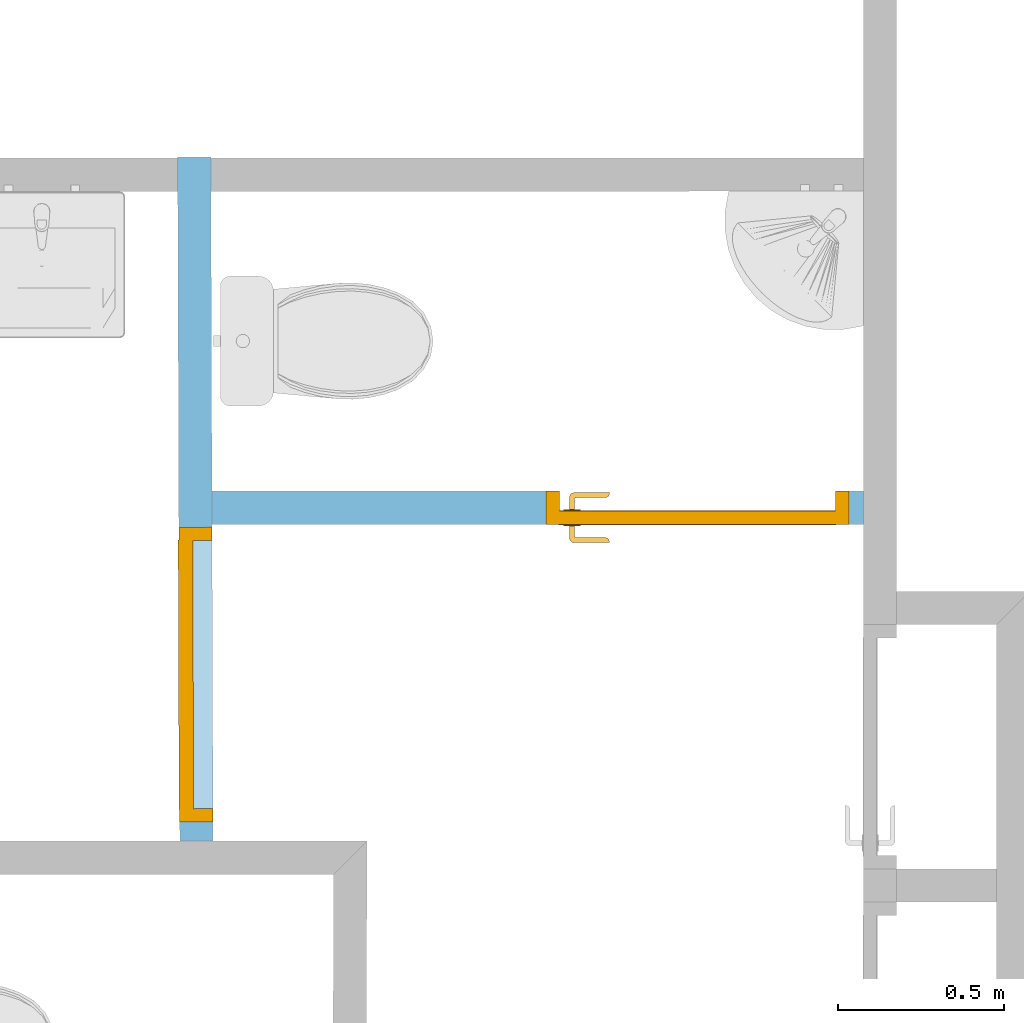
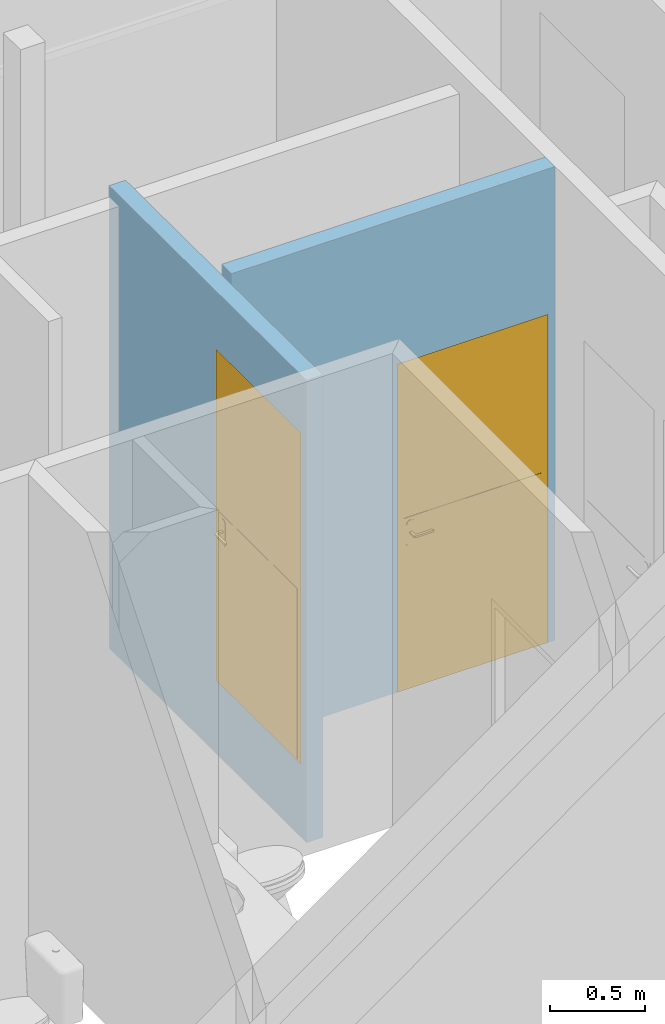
# One storey, part 22 of 34: 2 doors, 2 openings, plus 2 elements that do not belong to this part.
"""IFC2X3 building model written with IfcOpenShell, lengths in metres."""

from ifc_helpers import new_model, entity, si_unit, converted_unit, derived_unit, money_unit, direction, frame, origin_with_axes, origin_2d_with_axis, place, context, subcontext, project, spatial, polyline, rectangle, outline, extrude, faceted_brep, material, layer, layer_set, layer_usage, type_object, element, fill, save


model = new_model("IFC2X3")

# Units and contexts
model_context = context("Model", 3, precision=1e-05, world=origin_with_axes(), true_north=direction((0.0, 1.0)))
body_context = subcontext(model_context, "Body", "Model", "MODEL_VIEW")
ifc_project = project(units=[si_unit("LENGTHUNIT", "METRE"), si_unit("AREAUNIT", "SQUARE_METRE"), si_unit("VOLUMEUNIT", "CUBIC_METRE"), converted_unit("PLANEANGLEUNIT", "DEGREE", entity("IfcPlaneAngleMeasure", 0.0174532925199), si_unit("PLANEANGLEUNIT", "RADIAN"), dimensions=[0, 0, 0, 0, 0, 0, 0]), money_unit("CHF"), converted_unit("TIMEUNIT", "Year", entity("IfcTimeMeasure", 31556926.0), si_unit("TIMEUNIT", "SECOND"), dimensions=[0, 0, 1, 0, 0, 0, 0]), si_unit("MASSUNIT", "GRAM", prefix="KILO"), si_unit("THERMODYNAMICTEMPERATUREUNIT", "DEGREE_CELSIUS"), si_unit("LUMINOUSINTENSITYUNIT", "LUMEN"), si_unit("ENERGYUNIT", "JOULE", prefix="MEGA"), derived_unit("THERMALCONDUCTANCEUNIT", [(si_unit("POWERUNIT", "WATT"), 1), (si_unit("LENGTHUNIT", "METRE"), -1), (si_unit("THERMODYNAMICTEMPERATUREUNIT", "KELVIN"), -1)]), derived_unit("SPECIFICHEATCAPACITYUNIT", [(si_unit("ENERGYUNIT", "JOULE"), 1), (si_unit("MASSUNIT", "GRAM", prefix="KILO"), -1), (si_unit("THERMODYNAMICTEMPERATUREUNIT", "KELVIN"), -1)]), derived_unit("MASSDENSITYUNIT", [(si_unit("MASSUNIT", "GRAM", prefix="KILO"), 1), (si_unit("VOLUMEUNIT", "CUBIC_METRE"), -1)])], contexts=[model_context])

# Site, building, storey
site_placement = place(None, origin_with_axes())
site = spatial("IfcSite", under=ifc_project, at=site_placement, Name="Site", CompositionType="ELEMENT")
building_placement = place(site_placement, origin_with_axes())
building = spatial("IfcBuilding", under=site, at=building_placement, Name="Bâtiment", CompositionType="ELEMENT")
storey_placement = place(building_placement, origin_with_axes())
storey = spatial("IfcBuildingStorey", under=building, at=storey_placement, Name="RDC", CompositionType="ELEMENT", Elevation=-5.32907e-15)

# Wall, opening, door
ifc_material_1 = material(Name="Plâtre lissé 291446788")
ifc_layer_1 = layer(ifc_material_1, 0.015, ventilated="UNKNOWN")
ifc_material_2 = material(Name="Isolation laine de pierre 307970822")
ifc_layer_2 = layer(ifc_material_2, 0.07, ventilated="UNKNOWN")
ifc_layer_3 = layer(ifc_material_1, 0.015, ventilated="UNKNOWN")
ifc_layer_set = layer_set([ifc_layer_1, ifc_layer_2, ifc_layer_3], Name="CLOISON 10 ROUGE")
ifc_layer_usage_1 = layer_usage(ifc_layer_set, "AXIS2", "POSITIVE", 0.0)
wall_type = type_object("IfcWallType", Name="CLOISON 10 ROUGE 100", PredefinedType="NOTDEFINED")
wall_1_placement = place(storey_placement, frame((1671.0330132, 185.701953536, 0.47), z_axis=(0.0, 0.0, 1.0), x_axis=(1.0, 0.0, 0.0)))
wall_1 = element("IfcWallStandardCase", 1, at=wall_1_placement, inside=storey, type_object=wall_type, material=ifc_layer_usage_1, Name="Mur-010", context=body_context, shape_type="SweptSolid", body=[
    extrude(outline(polyline([(0.100000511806, 0.0), (2.05788262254, 0.0), (2.05788262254, 0.1), (0.099680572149, 0.1), (0.100000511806, 0.0)])), origin_with_axes(), (0.0, 0.0, 1.0), 3.03000008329),
])
opening_1_placement = place(wall_1_placement, frame((1.55904852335, 0.0, 0.0), z_axis=(0.0, 0.0, 1.0), x_axis=(1.0, 0.0, 0.0)))
opening_1 = element("IfcOpeningElement", 2, at=opening_1_placement, cuts=wall_1, Name="Por-004", context=body_context, shape_type="SweptSolid", body=[
    extrude(rectangle(XDim=0.91, YDim=2.1, at=origin_2d_with_axis()), frame((0.0, 0.1, 1.05), z_axis=(0.0, 1.0, 0.0), x_axis=(1.0, 0.0, 0.0)), (0.0, 0.0, -1.0), 0.3),
])
door_style = type_object("IfcDoorStyle", Name="Porte 25", ConstructionType="NOTDEFINED", OperationType="SINGLE_SWING_LEFT", ParameterTakesPrecedence=False, Sizeable=False)
door_1_placement = place(opening_1_placement, frame((0.427, 0.0, 0.0), z_axis=(0.0, 0.0, 1.0), x_axis=(-1.0, 0.0, 0.0)))
door_1 = element("IfcDoor", 3, at=door_1_placement, inside=storey, type_object=door_style, Name="Por-004", OverallHeight=2.1, OverallWidth=0.91, context=body_context, shape_type="Brep", body=[
    faceted_brep([(0.842, -0.04, 0.0), (0.842, -0.1, 0.0), (0.842, -0.1, 2.06), (0.842, -0.04, 2.06), (0.854, -0.04, 0.0), (0.854, 0.0, 0.0), (0.882, 0.0, 0.0), (0.882, -0.1, 0.0), (0.882, -0.1, 2.06), (0.854, -0.04, 2.06), (0.882, 0.0, 2.06), (0.854, 0.0, 2.06)], [[[0, 1, 2, 3]], [[4, 5, 6, 7, 1, 0]], [[1, 7, 8, 2]], [[9, 3, 2, 8, 10, 11]], [[9, 4, 0, 3]], [[11, 5, 4, 9]], [[11, 10, 6, 5]], [[6, 10, 8, 7]]]),
    faceted_brep([(0.0, -0.04, 2.06), (0.0, 0.0, 2.06), (-0.028, 0.0, 2.06), (-0.028, -0.1, 2.06), (0.012, -0.1, 2.06), (0.012, -0.04, 2.06), (0.0, -0.04, 0.0), (0.0, 0.0, 0.0), (-0.028, 0.0, 0.0), (-0.028, -0.1, 0.0), (0.012, -0.1, 0.0), (0.012, -0.04, 0.0)], [[[0, 1, 2, 3, 4, 5]], [[0, 6, 7, 1]], [[7, 8, 2, 1]], [[2, 8, 9, 3]], [[3, 9, 10, 4]], [[5, 4, 10, 11]], [[5, 11, 6, 0]], [[6, 11, 10, 9, 8, 7]]]),
    faceted_brep([(0.854, 0.0, 2.072), (0.0, 0.0, 2.072), (0.0, 0.0, 2.06), (-0.028, 0.0, 2.06), (-0.028, 0.0, 2.1), (0.882, 0.0, 2.1), (0.882, 0.0, 2.06), (0.854, 0.0, 2.06), (0.854, -0.04, 2.072), (0.0, -0.04, 2.072), (0.0, -0.04, 2.06), (0.012, -0.04, 2.06), (0.012, -0.1, 2.06), (-0.028, -0.1, 2.06), (-0.028, -0.1, 2.1), (0.882, -0.1, 2.1), (0.882, -0.1, 2.06), (0.854, -0.04, 2.06), (0.842, -0.1, 2.06), (0.842, -0.04, 2.06)], [[[0, 1, 2, 3, 4, 5, 6, 7]], [[0, 8, 9, 1]], [[1, 9, 10, 2]], [[10, 11, 12, 13, 3, 2]], [[4, 3, 13, 14]], [[5, 4, 14, 15]], [[6, 5, 15, 16]], [[17, 7, 6, 16, 18, 19]], [[7, 17, 8, 0]], [[10, 9, 8, 17, 19, 11]], [[19, 18, 12, 11]], [[12, 18, 16, 15, 14, 13]]]),
    faceted_brep([(0.829, -0.04, 0.93), (0.829, -0.045, 0.93), (0.827096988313, -0.045, 0.920432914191), (0.827096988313, -0.04, 0.920432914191), (0.829, -0.04, 1.055), (0.829, -0.045, 1.055), (0.827096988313, -0.045, 1.06456708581), (0.82167766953, -0.045, 1.07267766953), (0.813567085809, -0.045, 1.07809698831), (0.804, -0.045, 1.08), (0.794432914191, -0.045, 1.07809698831), (0.78632233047, -0.045, 1.07267766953), (0.780903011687, -0.045, 1.06456708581), (0.779, -0.045, 1.055), (0.779, -0.045, 0.93), (0.780903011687, -0.045, 0.920432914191), (0.78632233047, -0.045, 0.91232233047), (0.794432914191, -0.045, 0.906903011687), (0.804, -0.045, 0.905), (0.813567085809, -0.045, 0.906903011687), (0.82167766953, -0.045, 0.91232233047), (0.82167766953, -0.04, 0.91232233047), (0.813567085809, -0.04, 0.906903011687), (0.804, -0.04, 0.905), (0.794432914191, -0.04, 0.906903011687), (0.78632233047, -0.04, 0.91232233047), (0.780903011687, -0.04, 0.920432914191), (0.779, -0.04, 0.93), (0.779, -0.04, 1.055), (0.780903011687, -0.04, 1.06456708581), (0.78632233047, -0.04, 1.07267766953), (0.794432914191, -0.04, 1.07809698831), (0.804, -0.04, 1.08), (0.813567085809, -0.04, 1.07809698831), (0.82167766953, -0.04, 1.07267766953), (0.827096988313, -0.04, 1.06456708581)], [[[0, 1, 2, 3]], [[4, 5, 1, 0]], [[1, 5, 6, 7, 8, 9, 10, 11, 12, 13, 14, 15, 16, 17, 18, 19, 20, 2]], [[3, 2, 20, 21]], [[0, 3, 21, 22, 23, 24, 25, 26, 27, 28, 29, 30, 31, 32, 33, 34, 35, 4]], [[35, 6, 5, 4]], [[34, 7, 6, 35]], [[33, 8, 7, 34]], [[32, 9, 8, 33]], [[31, 10, 9, 32]], [[30, 11, 10, 31]], [[29, 12, 11, 30]], [[28, 13, 12, 29]], [[27, 14, 13, 28]], [[26, 15, 14, 27]], [[25, 16, 15, 26]], [[24, 17, 16, 25]], [[23, 18, 17, 24]], [[22, 19, 18, 23]], [[21, 20, 19, 22]]]),
    faceted_brep([(0.7965, -0.045, 1.005), (0.7965, -0.045, 0.995), (0.7965, -0.075, 0.995), (0.7965, -0.075, 1.005), (0.8115, -0.045, 1.005), (0.8115, -0.045, 0.995), (0.8115, -0.082, 0.995), (0.810510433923, -0.0869748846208, 0.995), (0.807692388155, -0.0911923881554, 0.995), (0.803474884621, -0.0940104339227, 0.995), (0.7985, -0.095, 0.995), (0.6915, -0.095, 0.995), (0.6915, -0.093, 0.995), (0.692489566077, -0.0880251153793, 0.995), (0.695307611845, -0.0838076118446, 0.995), (0.699525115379, -0.0809895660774, 0.995), (0.7045, -0.08, 0.995), (0.7915, -0.08, 0.995), (0.793413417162, -0.0796193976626, 0.995), (0.795035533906, -0.0785355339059, 0.995), (0.796119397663, -0.0769134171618, 0.995), (0.796119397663, -0.0769134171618, 1.005), (0.795035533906, -0.0785355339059, 1.005), (0.793413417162, -0.0796193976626, 1.005), (0.7915, -0.08, 1.005), (0.7045, -0.08, 1.005), (0.699525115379, -0.0809895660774, 1.005), (0.695307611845, -0.0838076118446, 1.005), (0.692489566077, -0.0880251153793, 1.005), (0.6915, -0.093, 1.005), (0.6915, -0.095, 1.005), (0.7985, -0.095, 1.005), (0.803474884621, -0.0940104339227, 1.005), (0.807692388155, -0.0911923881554, 1.005), (0.810510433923, -0.0869748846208, 1.005), (0.8115, -0.082, 1.005)], [[[0, 1, 2, 3]], [[4, 5, 1, 0]], [[1, 5, 6, 7, 8, 9, 10, 11, 12, 13, 14, 15, 16, 17, 18, 19, 20, 2]], [[3, 2, 20, 21]], [[0, 3, 21, 22, 23, 24, 25, 26, 27, 28, 29, 30, 31, 32, 33, 34, 35, 4]], [[35, 6, 5, 4]], [[34, 7, 6, 35]], [[33, 8, 7, 34]], [[32, 9, 8, 33]], [[31, 10, 9, 32]], [[30, 11, 10, 31]], [[29, 12, 11, 30]], [[28, 13, 12, 29]], [[27, 14, 13, 28]], [[26, 15, 14, 27]], [[25, 16, 15, 26]], [[24, 17, 16, 25]], [[23, 18, 17, 24]], [[22, 19, 18, 23]], [[21, 20, 19, 22]]]),
    faceted_brep([(0.829, 0.0, 0.93), (0.827096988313, 0.0, 0.920432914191), (0.827096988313, 0.00499999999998, 0.920432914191), (0.829, 0.00499999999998, 0.93), (0.829, 0.0, 1.055), (0.827096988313, 0.0, 1.06456708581), (0.82167766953, 0.0, 1.07267766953), (0.813567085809, 0.0, 1.07809698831), (0.804, 0.0, 1.08), (0.794432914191, 0.0, 1.07809698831), (0.78632233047, 0.0, 1.07267766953), (0.780903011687, 0.0, 1.06456708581), (0.779, 0.0, 1.055), (0.779, 0.0, 0.93), (0.780903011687, 0.0, 0.920432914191), (0.78632233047, 0.0, 0.91232233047), (0.794432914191, 0.0, 0.906903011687), (0.804, 0.0, 0.905), (0.813567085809, 0.0, 0.906903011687), (0.82167766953, 0.0, 0.91232233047), (0.82167766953, 0.00499999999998, 0.91232233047), (0.813567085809, 0.00499999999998, 0.906903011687), (0.804, 0.00499999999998, 0.905), (0.794432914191, 0.00499999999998, 0.906903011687), (0.78632233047, 0.00499999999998, 0.91232233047), (0.780903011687, 0.00499999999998, 0.920432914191), (0.779, 0.00499999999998, 0.93), (0.779, 0.00499999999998, 1.055), (0.780903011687, 0.00499999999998, 1.06456708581), (0.78632233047, 0.00499999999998, 1.07267766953), (0.794432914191, 0.00499999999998, 1.07809698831), (0.804, 0.00499999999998, 1.08), (0.813567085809, 0.00499999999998, 1.07809698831), (0.82167766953, 0.00499999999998, 1.07267766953), (0.827096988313, 0.00499999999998, 1.06456708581), (0.829, 0.00499999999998, 1.055)], [[[0, 1, 2, 3]], [[0, 4, 5, 6, 7, 8, 9, 10, 11, 12, 13, 14, 15, 16, 17, 18, 19, 1]], [[1, 19, 20, 2]], [[3, 2, 20, 21, 22, 23, 24, 25, 26, 27, 28, 29, 30, 31, 32, 33, 34, 35]], [[4, 0, 3, 35]], [[5, 4, 35, 34]], [[6, 5, 34, 33]], [[7, 6, 33, 32]], [[8, 7, 32, 31]], [[9, 8, 31, 30]], [[10, 9, 30, 29]], [[11, 10, 29, 28]], [[12, 11, 28, 27]], [[13, 12, 27, 26]], [[14, 13, 26, 25]], [[15, 14, 25, 24]], [[16, 15, 24, 23]], [[17, 16, 23, 22]], [[18, 17, 22, 21]], [[19, 18, 21, 20]]]),
    faceted_brep([(0.7965, 0.00499999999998, 1.005), (0.7965, 0.035, 1.005), (0.7965, 0.035, 0.995), (0.7965, 0.00499999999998, 0.995), (0.8115, 0.00499999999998, 1.005), (0.8115, 0.042, 1.005), (0.810510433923, 0.0469748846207, 1.005), (0.807692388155, 0.0511923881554, 1.005), (0.803474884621, 0.0540104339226, 1.005), (0.7985, 0.055, 1.005), (0.6915, 0.055, 1.005), (0.6915, 0.053, 1.005), (0.692489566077, 0.0480251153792, 1.005), (0.695307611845, 0.0438076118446, 1.005), (0.699525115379, 0.0409895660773, 1.005), (0.7045, 0.04, 1.005), (0.7915, 0.04, 1.005), (0.793413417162, 0.0396193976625, 1.005), (0.795035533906, 0.0385355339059, 1.005), (0.796119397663, 0.0369134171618, 1.005), (0.796119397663, 0.0369134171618, 0.995), (0.795035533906, 0.0385355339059, 0.995), (0.793413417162, 0.0396193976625, 0.995), (0.7915, 0.04, 0.995), (0.7045, 0.04, 0.995), (0.699525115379, 0.0409895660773, 0.995), (0.695307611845, 0.0438076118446, 0.995), (0.692489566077, 0.0480251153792, 0.995), (0.6915, 0.053, 0.995), (0.6915, 0.055, 0.995), (0.7985, 0.055, 0.995), (0.803474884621, 0.0540104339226, 0.995), (0.807692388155, 0.0511923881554, 0.995), (0.810510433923, 0.0469748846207, 0.995), (0.8115, 0.042, 0.995), (0.8115, 0.00499999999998, 0.995)], [[[0, 1, 2, 3]], [[0, 4, 5, 6, 7, 8, 9, 10, 11, 12, 13, 14, 15, 16, 17, 18, 19, 1]], [[1, 19, 20, 2]], [[3, 2, 20, 21, 22, 23, 24, 25, 26, 27, 28, 29, 30, 31, 32, 33, 34, 35]], [[4, 0, 3, 35]], [[5, 4, 35, 34]], [[6, 5, 34, 33]], [[7, 6, 33, 32]], [[8, 7, 32, 31]], [[9, 8, 31, 30]], [[10, 9, 30, 29]], [[11, 10, 29, 28]], [[12, 11, 28, 27]], [[13, 12, 27, 26]], [[14, 13, 26, 25]], [[15, 14, 25, 24]], [[16, 15, 24, 23]], [[17, 16, 23, 22]], [[18, 17, 22, 21]], [[19, 18, 21, 20]]]),
    faceted_brep([(0.01, 0.00199999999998, 0.01), (0.844, 0.00199999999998, 0.01), (0.844, 0.0, 0.01), (0.01, 0.0, 0.01), (0.01, 0.00199999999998, 1.1), (0.844, 0.00199999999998, 1.1), (0.844, 0.0, 1.1), (0.01, 0.0, 1.1)], [[[0, 1, 2, 3]], [[0, 4, 5, 1]], [[1, 5, 6, 2]], [[3, 2, 6, 7]], [[4, 0, 3, 7]], [[5, 4, 7, 6]]]),
    faceted_brep([(0.01, -0.04, 0.01), (0.844, -0.04, 0.01), (0.844, -0.042, 0.01), (0.01, -0.042, 0.01), (0.01, -0.04, 1.1), (0.844, -0.04, 1.1), (0.844, -0.042, 1.1), (0.01, -0.042, 1.1)], [[[0, 1, 2, 3]], [[0, 4, 5, 1]], [[1, 5, 6, 2]], [[3, 2, 6, 7]], [[4, 0, 3, 7]], [[5, 4, 7, 6]]]),
    faceted_brep([(0.0, 0.0, 0.0), (0.854, 0.0, 0.0), (0.854, -0.04, 0.0), (0.0, -0.04, 0.0), (0.0, 0.0, 2.072), (0.854, 0.0, 2.072), (0.854, -0.04, 2.072), (0.0, -0.04, 2.072)], [[[0, 1, 2, 3]], [[0, 4, 5, 1]], [[1, 5, 6, 2]], [[3, 2, 6, 7]], [[4, 0, 3, 7]], [[5, 4, 7, 6]]]),
])
fill(opening_1, door_1)

ifc_layer_usage_2 = layer_usage(ifc_layer_set, "AXIS2", "POSITIVE", 0.0)
wall_2_placement = place(storey_placement, frame((1671.02948095, 186.805988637, 0.47), z_axis=(0.0, 0.0, 1.0), x_axis=(0.00319938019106, -0.99999488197, 0.0)))
wall_2 = element("IfcWallStandardCase", 4, at=wall_2_placement, inside=storey, type_object=wall_type, material=ifc_layer_usage_2, Name="Mur-010", context=body_context, shape_type="SweptSolid", body=[
    extrude(outline(polyline([(0.0, 0.0), (2.0565632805, 0.0), (2.05688322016, 0.1), (0.0, 0.1), (0.0, 0.0)])), origin_with_axes(), (0.0, 0.0, 1.0), 2.96),
])
opening_2_placement = place(wall_2_placement, frame((1.55621209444, 0.0, 0.47), z_axis=(0.0, 0.0, 1.0), x_axis=(1.0, 0.0, 0.0)))
opening_2 = element("IfcOpeningElement", 5, at=opening_2_placement, cuts=wall_2, Name="Por-004", context=body_context, shape_type="SweptSolid", body=[
    extrude(rectangle(XDim=0.886, YDim=2.118, at=origin_2d_with_axis()), frame((0.0, 0.0999999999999, 1.059), z_axis=(0.0, 1.0, 0.0), x_axis=(1.0, 0.0, 0.0)), (0.0, 0.0, -1.0), 0.3),
])
door_2_placement = place(opening_2_placement, frame((0.415, 0.0, 0.0), z_axis=(0.0, 0.0, 1.0), x_axis=(-1.0, 0.0, 0.0)))
door_2 = element("IfcDoor", 6, at=door_2_placement, inside=storey, type_object=door_style, Name="Por-004", OverallHeight=2.118, OverallWidth=0.886, context=body_context, shape_type="Brep", body=[
    faceted_brep([(0.818, -0.04, 0.0), (0.818, -0.1, 0.0), (0.818, -0.1, 2.078), (0.818, -0.04, 2.078), (0.83, -0.04, 0.0), (0.83, 0.0, 0.0), (0.858, 0.0, 0.0), (0.858, -0.1, 0.0), (0.858, -0.1, 2.078), (0.83, -0.04, 2.078), (0.858, 0.0, 2.078), (0.83, 0.0, 2.078)], [[[0, 1, 2, 3]], [[4, 5, 6, 7, 1, 0]], [[1, 7, 8, 2]], [[9, 3, 2, 8, 10, 11]], [[9, 4, 0, 3]], [[11, 5, 4, 9]], [[11, 10, 6, 5]], [[6, 10, 8, 7]]]),
    faceted_brep([(0.0, -0.04, 2.078), (0.0, 0.0, 2.078), (-0.028, 0.0, 2.078), (-0.028, -0.1, 2.078), (0.012, -0.1, 2.078), (0.012, -0.04, 2.078), (0.0, -0.04, 0.0), (0.0, 0.0, 0.0), (-0.028, 0.0, 0.0), (-0.028, -0.1, 0.0), (0.012, -0.1, 0.0), (0.012, -0.04, 0.0)], [[[0, 1, 2, 3, 4, 5]], [[0, 6, 7, 1]], [[7, 8, 2, 1]], [[2, 8, 9, 3]], [[3, 9, 10, 4]], [[5, 4, 10, 11]], [[5, 11, 6, 0]], [[6, 11, 10, 9, 8, 7]]]),
    faceted_brep([(0.83, 0.0, 2.09), (0.0, 0.0, 2.09), (0.0, 0.0, 2.078), (-0.028, 0.0, 2.078), (-0.028, 0.0, 2.118), (0.858, 0.0, 2.118), (0.858, 0.0, 2.078), (0.83, 0.0, 2.078), (0.83, -0.04, 2.09), (0.0, -0.04, 2.09), (0.0, -0.04, 2.078), (0.012, -0.04, 2.078), (0.012, -0.1, 2.078), (-0.028, -0.1, 2.078), (-0.028, -0.1, 2.118), (0.858, -0.1, 2.118), (0.858, -0.1, 2.078), (0.83, -0.04, 2.078), (0.818, -0.1, 2.078), (0.818, -0.04, 2.078)], [[[0, 1, 2, 3, 4, 5, 6, 7]], [[0, 8, 9, 1]], [[1, 9, 10, 2]], [[10, 11, 12, 13, 3, 2]], [[4, 3, 13, 14]], [[5, 4, 14, 15]], [[6, 5, 15, 16]], [[17, 7, 6, 16, 18, 19]], [[7, 17, 8, 0]], [[10, 9, 8, 17, 19, 11]], [[19, 18, 12, 11]], [[12, 18, 16, 15, 14, 13]]]),
    faceted_brep([(0.805, -0.04, 0.93), (0.805, -0.045, 0.93), (0.803096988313, -0.045, 0.920432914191), (0.803096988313, -0.04, 0.920432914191), (0.805, -0.04, 1.055), (0.805, -0.045, 1.055), (0.803096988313, -0.045, 1.06456708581), (0.79767766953, -0.0450000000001, 1.07267766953), (0.789567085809, -0.045, 1.07809698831), (0.78, -0.045, 1.08), (0.770432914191, -0.045, 1.07809698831), (0.76232233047, -0.045, 1.07267766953), (0.756903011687, -0.045, 1.06456708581), (0.755, -0.045, 1.055), (0.755, -0.045, 0.93), (0.756903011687, -0.045, 0.920432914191), (0.76232233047, -0.045, 0.91232233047), (0.770432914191, -0.045, 0.906903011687), (0.78, -0.045, 0.905), (0.789567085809, -0.045, 0.906903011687), (0.79767766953, -0.0450000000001, 0.91232233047), (0.79767766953, -0.04, 0.91232233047), (0.789567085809, -0.04, 0.906903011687), (0.78, -0.04, 0.905), (0.770432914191, -0.04, 0.906903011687), (0.76232233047, -0.04, 0.91232233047), (0.756903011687, -0.04, 0.920432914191), (0.755, -0.04, 0.93), (0.755, -0.04, 1.055), (0.756903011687, -0.04, 1.06456708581), (0.76232233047, -0.04, 1.07267766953), (0.770432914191, -0.04, 1.07809698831), (0.78, -0.04, 1.08), (0.789567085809, -0.04, 1.07809698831), (0.79767766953, -0.04, 1.07267766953), (0.803096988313, -0.04, 1.06456708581)], [[[0, 1, 2, 3]], [[4, 5, 1, 0]], [[1, 5, 6, 7, 8, 9, 10, 11, 12, 13, 14, 15, 16, 17, 18, 19, 20, 2]], [[3, 2, 20, 21]], [[0, 3, 21, 22, 23, 24, 25, 26, 27, 28, 29, 30, 31, 32, 33, 34, 35, 4]], [[35, 6, 5, 4]], [[34, 7, 6, 35]], [[33, 8, 7, 34]], [[32, 9, 8, 33]], [[31, 10, 9, 32]], [[30, 11, 10, 31]], [[29, 12, 11, 30]], [[28, 13, 12, 29]], [[27, 14, 13, 28]], [[26, 15, 14, 27]], [[25, 16, 15, 26]], [[24, 17, 16, 25]], [[23, 18, 17, 24]], [[22, 19, 18, 23]], [[21, 20, 19, 22]]]),
    faceted_brep([(0.7725, -0.045, 1.005), (0.7725, -0.045, 0.995), (0.7725, -0.075, 0.995), (0.7725, -0.075, 1.005), (0.7875, -0.045, 1.005), (0.7875, -0.045, 0.995), (0.7875, -0.0820000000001, 0.995), (0.786510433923, -0.0869748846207, 0.995), (0.783692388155, -0.0911923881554, 0.995), (0.779474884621, -0.0940104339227, 0.995), (0.7745, -0.095, 0.995), (0.6675, -0.095, 0.995), (0.6675, -0.093, 0.995), (0.668489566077, -0.0880251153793, 0.995), (0.671307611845, -0.0838076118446, 0.995), (0.675525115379, -0.0809895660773, 0.995), (0.6805, -0.08, 0.995), (0.7675, -0.08, 0.995), (0.769413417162, -0.0796193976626, 0.995), (0.771035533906, -0.0785355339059, 0.995), (0.772119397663, -0.0769134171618, 0.995), (0.772119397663, -0.0769134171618, 1.005), (0.771035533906, -0.0785355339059, 1.005), (0.769413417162, -0.0796193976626, 1.005), (0.7675, -0.08, 1.005), (0.6805, -0.08, 1.005), (0.675525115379, -0.0809895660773, 1.005), (0.671307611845, -0.0838076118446, 1.005), (0.668489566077, -0.0880251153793, 1.005), (0.6675, -0.093, 1.005), (0.6675, -0.095, 1.005), (0.7745, -0.095, 1.005), (0.779474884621, -0.0940104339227, 1.005), (0.783692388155, -0.0911923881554, 1.005), (0.786510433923, -0.0869748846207, 1.005), (0.7875, -0.0820000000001, 1.005)], [[[0, 1, 2, 3]], [[4, 5, 1, 0]], [[1, 5, 6, 7, 8, 9, 10, 11, 12, 13, 14, 15, 16, 17, 18, 19, 20, 2]], [[3, 2, 20, 21]], [[0, 3, 21, 22, 23, 24, 25, 26, 27, 28, 29, 30, 31, 32, 33, 34, 35, 4]], [[35, 6, 5, 4]], [[34, 7, 6, 35]], [[33, 8, 7, 34]], [[32, 9, 8, 33]], [[31, 10, 9, 32]], [[30, 11, 10, 31]], [[29, 12, 11, 30]], [[28, 13, 12, 29]], [[27, 14, 13, 28]], [[26, 15, 14, 27]], [[25, 16, 15, 26]], [[24, 17, 16, 25]], [[23, 18, 17, 24]], [[22, 19, 18, 23]], [[21, 20, 19, 22]]]),
    faceted_brep([(0.805, 0.0, 0.93), (0.803096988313, 0.0, 0.920432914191), (0.803096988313, 0.00499999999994, 0.920432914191), (0.805, 0.00499999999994, 0.93), (0.805, 0.0, 1.055), (0.803096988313, 0.0, 1.06456708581), (0.79767766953, 0.0, 1.07267766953), (0.789567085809, 0.0, 1.07809698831), (0.78, 0.0, 1.08), (0.770432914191, 0.0, 1.07809698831), (0.76232233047, 0.0, 1.07267766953), (0.756903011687, 0.0, 1.06456708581), (0.755, 0.0, 1.055), (0.755, 0.0, 0.93), (0.756903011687, 0.0, 0.920432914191), (0.76232233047, 0.0, 0.91232233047), (0.770432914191, 0.0, 0.906903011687), (0.78, 0.0, 0.905), (0.789567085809, 0.0, 0.906903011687), (0.79767766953, 0.0, 0.91232233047), (0.79767766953, 0.00500000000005, 0.91232233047), (0.789567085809, 0.005, 0.906903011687), (0.78, 0.005, 0.905), (0.770432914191, 0.005, 0.906903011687), (0.76232233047, 0.00499999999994, 0.91232233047), (0.756903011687, 0.005, 0.920432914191), (0.755, 0.005, 0.93), (0.755, 0.005, 1.055), (0.756903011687, 0.005, 1.06456708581), (0.76232233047, 0.00499999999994, 1.07267766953), (0.770432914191, 0.005, 1.07809698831), (0.78, 0.005, 1.08), (0.789567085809, 0.005, 1.07809698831), (0.79767766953, 0.00500000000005, 1.07267766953), (0.803096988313, 0.00499999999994, 1.06456708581), (0.805, 0.00499999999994, 1.055)], [[[0, 1, 2, 3]], [[0, 4, 5, 6, 7, 8, 9, 10, 11, 12, 13, 14, 15, 16, 17, 18, 19, 1]], [[1, 19, 20, 2]], [[3, 2, 20, 21, 22, 23, 24, 25, 26, 27, 28, 29, 30, 31, 32, 33, 34, 35]], [[4, 0, 3, 35]], [[5, 4, 35, 34]], [[6, 5, 34, 33]], [[7, 6, 33, 32]], [[8, 7, 32, 31]], [[9, 8, 31, 30]], [[10, 9, 30, 29]], [[11, 10, 29, 28]], [[12, 11, 28, 27]], [[13, 12, 27, 26]], [[14, 13, 26, 25]], [[15, 14, 25, 24]], [[16, 15, 24, 23]], [[17, 16, 23, 22]], [[18, 17, 22, 21]], [[19, 18, 21, 20]]]),
    faceted_brep([(0.7725, 0.005, 1.005), (0.7725, 0.035, 1.005), (0.7725, 0.035, 0.995), (0.7725, 0.005, 0.995), (0.7875, 0.00499999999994, 1.005), (0.7875, 0.042, 1.005), (0.786510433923, 0.0469748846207, 1.005), (0.783692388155, 0.0511923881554, 1.005), (0.779474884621, 0.0540104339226, 1.005), (0.7745, 0.055, 1.005), (0.6675, 0.0549999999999, 1.005), (0.6675, 0.053, 1.005), (0.668489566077, 0.0480251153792, 1.005), (0.671307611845, 0.0438076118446, 1.005), (0.675525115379, 0.0409895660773, 1.005), (0.6805, 0.04, 1.005), (0.7675, 0.04, 1.005), (0.769413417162, 0.0396193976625, 1.005), (0.771035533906, 0.0385355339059, 1.005), (0.772119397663, 0.0369134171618, 1.005), (0.772119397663, 0.0369134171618, 0.995), (0.771035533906, 0.0385355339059, 0.995), (0.769413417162, 0.0396193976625, 0.995), (0.7675, 0.04, 0.995), (0.6805, 0.04, 0.995), (0.675525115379, 0.0409895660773, 0.995), (0.671307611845, 0.0438076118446, 0.995), (0.668489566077, 0.0480251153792, 0.995), (0.6675, 0.053, 0.995), (0.6675, 0.0549999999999, 0.995), (0.7745, 0.055, 0.995), (0.779474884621, 0.0540104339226, 0.995), (0.783692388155, 0.0511923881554, 0.995), (0.786510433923, 0.0469748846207, 0.995), (0.7875, 0.042, 0.995), (0.7875, 0.00499999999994, 0.995)], [[[0, 1, 2, 3]], [[0, 4, 5, 6, 7, 8, 9, 10, 11, 12, 13, 14, 15, 16, 17, 18, 19, 1]], [[1, 19, 20, 2]], [[3, 2, 20, 21, 22, 23, 24, 25, 26, 27, 28, 29, 30, 31, 32, 33, 34, 35]], [[4, 0, 3, 35]], [[5, 4, 35, 34]], [[6, 5, 34, 33]], [[7, 6, 33, 32]], [[8, 7, 32, 31]], [[9, 8, 31, 30]], [[10, 9, 30, 29]], [[11, 10, 29, 28]], [[12, 11, 28, 27]], [[13, 12, 27, 26]], [[14, 13, 26, 25]], [[15, 14, 25, 24]], [[16, 15, 24, 23]], [[17, 16, 23, 22]], [[18, 17, 22, 21]], [[19, 18, 21, 20]]]),
    faceted_brep([(0.00999999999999, 0.00200000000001, 0.01), (0.82, 0.00200000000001, 0.01), (0.82, 0.0, 0.01), (0.00999999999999, 0.0, 0.01), (0.00999999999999, 0.00200000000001, 1.1), (0.82, 0.00200000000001, 1.1), (0.82, 0.0, 1.1), (0.00999999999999, 0.0, 1.1)], [[[0, 1, 2, 3]], [[0, 4, 5, 1]], [[1, 5, 6, 2]], [[3, 2, 6, 7]], [[4, 0, 3, 7]], [[5, 4, 7, 6]]]),
    faceted_brep([(0.01, -0.04, 0.01), (0.82, -0.04, 0.01), (0.82, -0.0420000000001, 0.01), (0.01, -0.042, 0.01), (0.01, -0.04, 1.1), (0.82, -0.04, 1.1), (0.82, -0.0420000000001, 1.1), (0.01, -0.042, 1.1)], [[[0, 1, 2, 3]], [[0, 4, 5, 1]], [[1, 5, 6, 2]], [[3, 2, 6, 7]], [[4, 0, 3, 7]], [[5, 4, 7, 6]]]),
    faceted_brep([(0.0, 0.0, 0.0), (0.83, 0.0, 0.0), (0.83, -0.04, 0.0), (0.0, -0.04, 0.0), (0.0, 0.0, 2.09), (0.83, 0.0, 2.09), (0.83, -0.04, 2.09), (0.0, -0.04, 2.09)], [[[0, 1, 2, 3]], [[0, 4, 5, 1]], [[1, 5, 6, 2]], [[3, 2, 6, 7]], [[4, 0, 3, 7]], [[5, 4, 7, 6]]]),
])
fill(opening_2, door_2)

save(model, "model.ifc")
